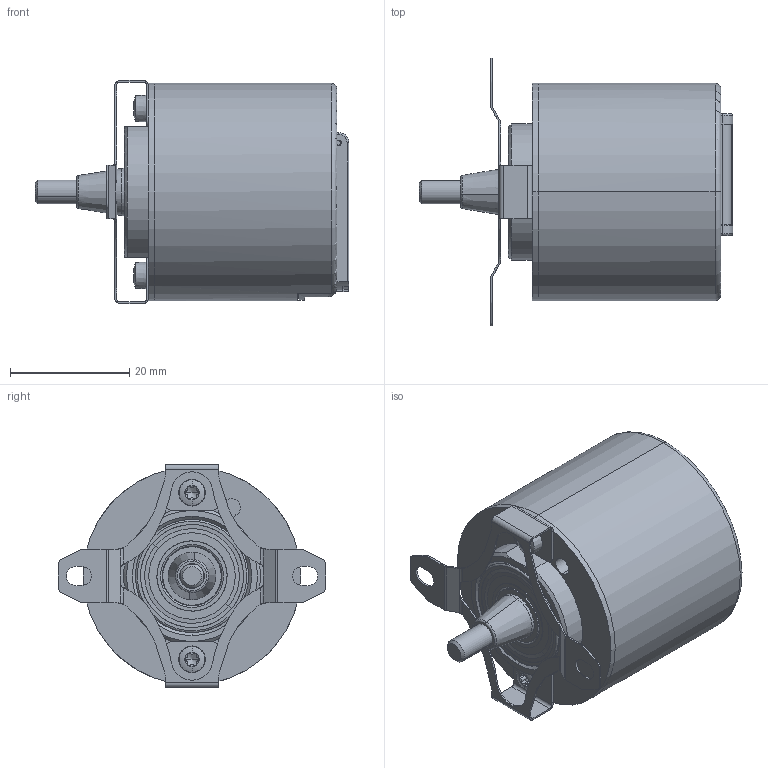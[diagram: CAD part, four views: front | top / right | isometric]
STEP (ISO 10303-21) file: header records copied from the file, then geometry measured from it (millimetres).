
FILE_DESCRIPTION (( 'STEP AP214' ), '1' );
FILE_NAME ('Z_S36X4.12X1.XXXX_2_Motor-Feedback-System.STEP', '2019-08-02T08:25:16', ( '' ), ( '' ), 'SwSTEP 2.0', 'SolidWorks 2017', '' );
FILE_SCHEMA (( 'AUTOMOTIVE_DESIGN' ));
Length unit declared in the file: millimetre
Products named in the file (1): Z_S36X4.12X1.XXXX_2_Motor-Feedback-System
Bounding box: 52.7 x 45 x 37.5 mm (x, y, z)
Surface area: 10229.5 mm2 (no closed solid volume)
Topology: 0 solids, 17 shells, 346 faces, 1172 edges, 829 vertices
Faces by surface type: cylinder 142, plane 142, cone 37, torus 20, bspline 5
Entity records: 17269 total; most frequent: CARTESIAN_POINT 3348, DIRECTION 2147, ORIENTED_EDGE 1950, EDGE_CURVE 1168, VERTEX_POINT 829, AXIS2_PLACEMENT_3D 766, VECTOR 615, LINE 615
